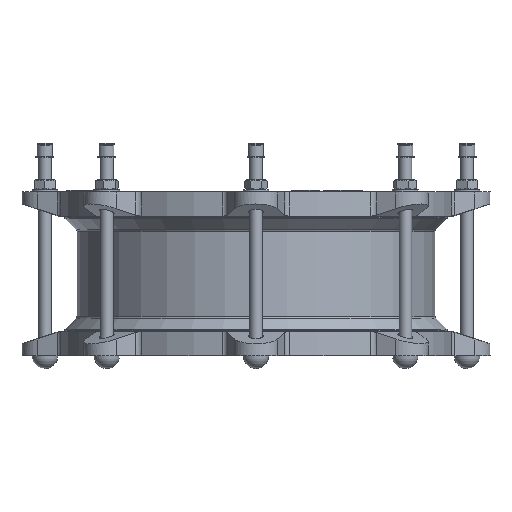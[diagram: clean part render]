
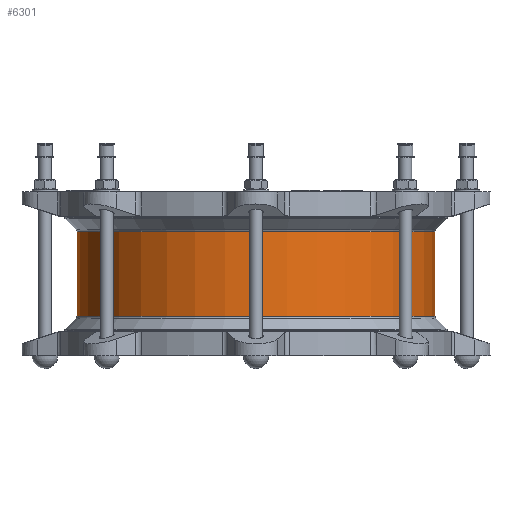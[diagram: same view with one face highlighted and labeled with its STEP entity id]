
A CAD part, front view. The second image highlights one B-rep face of the part: STEP entity #6301.
In plain terms, the highlighted cylindrical face has radius 195 mm (diameter 390 mm), a full revolution.
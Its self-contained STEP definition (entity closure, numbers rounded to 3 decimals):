
#6301=ADVANCED_FACE('',(#11659,#11661),#11663,.T.);
#11659=FACE_OUTER_BOUND('',#11660,.T.);
#11660=EDGE_LOOP('',(#17331));
#11661=FACE_OUTER_BOUND('',#11662,.T.);
#11662=EDGE_LOOP('',(#17332));
#11663=CYLINDRICAL_SURFACE('',#11664,195.);
#11664=AXIS2_PLACEMENT_3D('',#11665,#11666,#11667);
#11665=CARTESIAN_POINT('',(0.,0.,47.257));
#11666=DIRECTION('',(0.,0.,-1.));
#11667=DIRECTION('',(0.,1.,0.));
#17331=ORIENTED_EDGE('',*,*,#19742,.T.);
#17332=ORIENTED_EDGE('',*,*,#19743,.F.);
#19742=EDGE_CURVE('',#23109,#23109,#23110,.T.);
#19743=EDGE_CURVE('',#23111,#23111,#23112,.T.);
#23109=VERTEX_POINT('',#34119);
#23110=CIRCLE('',#34120,195.);
#23111=VERTEX_POINT('',#34124);
#23112=CIRCLE('',#34125,195.);
#34119=CARTESIAN_POINT('',(0.,195.,46.015));
#34120=AXIS2_PLACEMENT_3D('',#34121,#34122,#34123);
#34121=CARTESIAN_POINT('',(0.,0.,46.015));
#34122=DIRECTION('',(0.,0.,-1.));
#34123=DIRECTION('',(0.,1.,0.));
#34124=CARTESIAN_POINT('',(0.,195.,-46.015));
#34125=AXIS2_PLACEMENT_3D('',#34126,#34127,#34128);
#34126=CARTESIAN_POINT('',(0.,0.,-46.015));
#34127=DIRECTION('',(0.,0.,-1.));
#34128=DIRECTION('',(0.,1.,0.));
